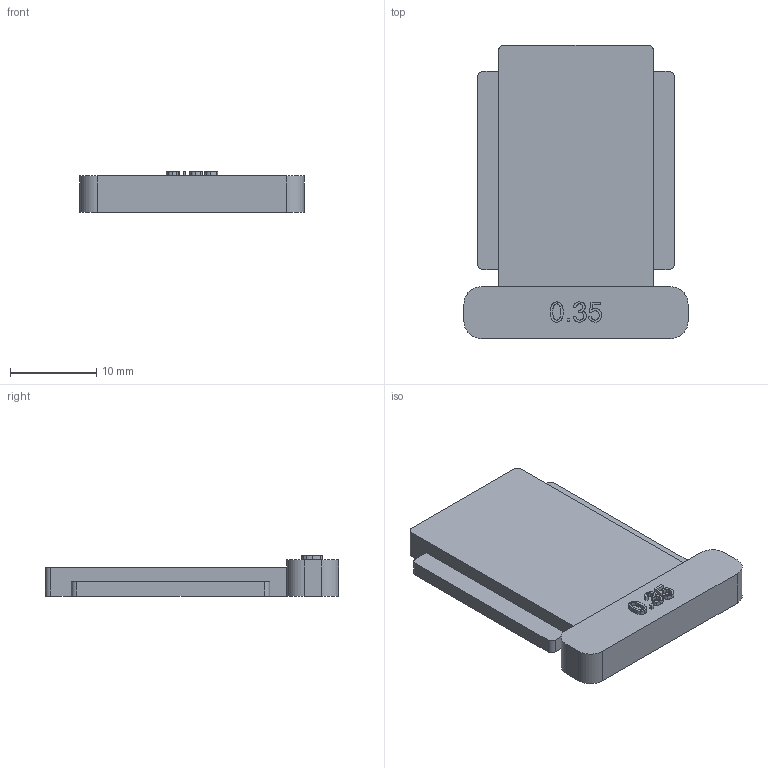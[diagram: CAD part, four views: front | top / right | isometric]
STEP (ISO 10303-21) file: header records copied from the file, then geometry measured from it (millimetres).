
FILE_DESCRIPTION(('Open CASCADE Model'),'2;1');
FILE_NAME('Open CASCADE Shape Model','1970-01-01T00:00:00',('Author'),( 'Open CASCADE'),'Open CASCADE STEP processor 7.8','Open CASCADE 7.8' ,'Unknown');
FILE_SCHEMA(('AUTOMOTIVE_DESIGN { 1 0 10303 214 1 1 1 1 }'));
Length unit declared in the file: millimetre
Products named in the file (2): Open CASCADE STEP translator 7.8 7; S35 sliding tongue
Assembly tree (1 placements, depth 2):
  Open CASCADE STEP translator 7.8 7
    S35 sliding tongue
Bounding box: 26 x 34 x 4.68 mm (x, y, z)
Volume: 2520.7 mm3; surface area: 2004.7 mm2
Topology: 1 solids, 1 shells, 109 faces, 306 edges, 204 vertices
Faces by surface type: extrusion 62, plane 37, cylinder 10
Entity records: 8690 total; most frequent: CARTESIAN_POINT 3172, DIRECTION 738, ORIENTED_EDGE 612, PCURVE 612, DEFINITIONAL_REPRESENTATION 612, VECTOR 584, LINE 522, B_SPLINE_CURVE_WITH_KNOTS 418
